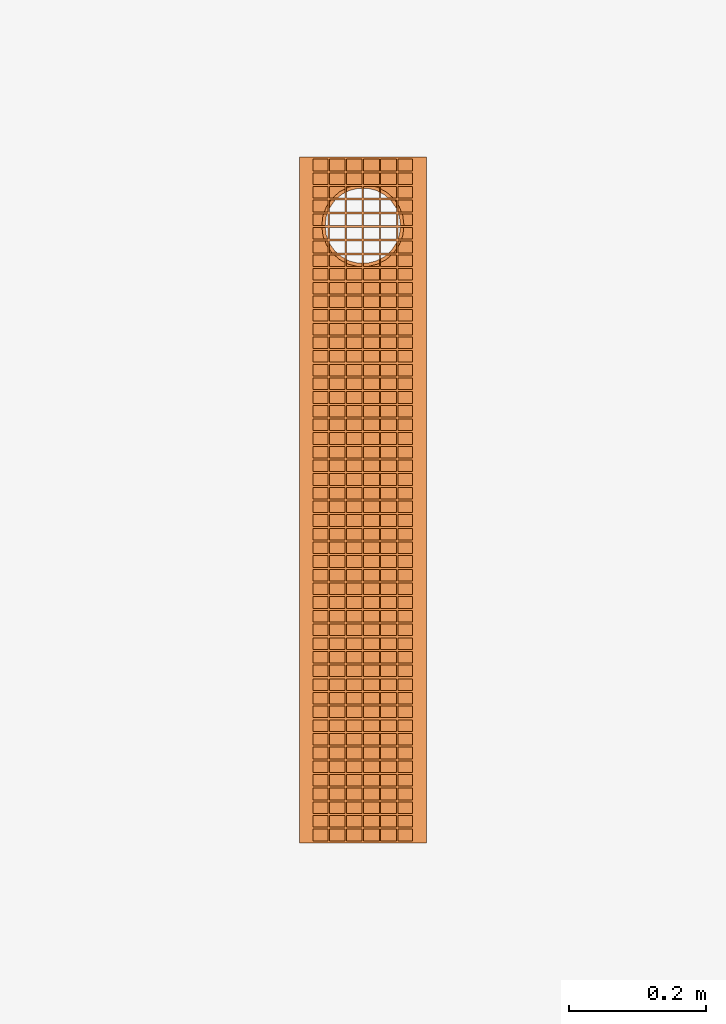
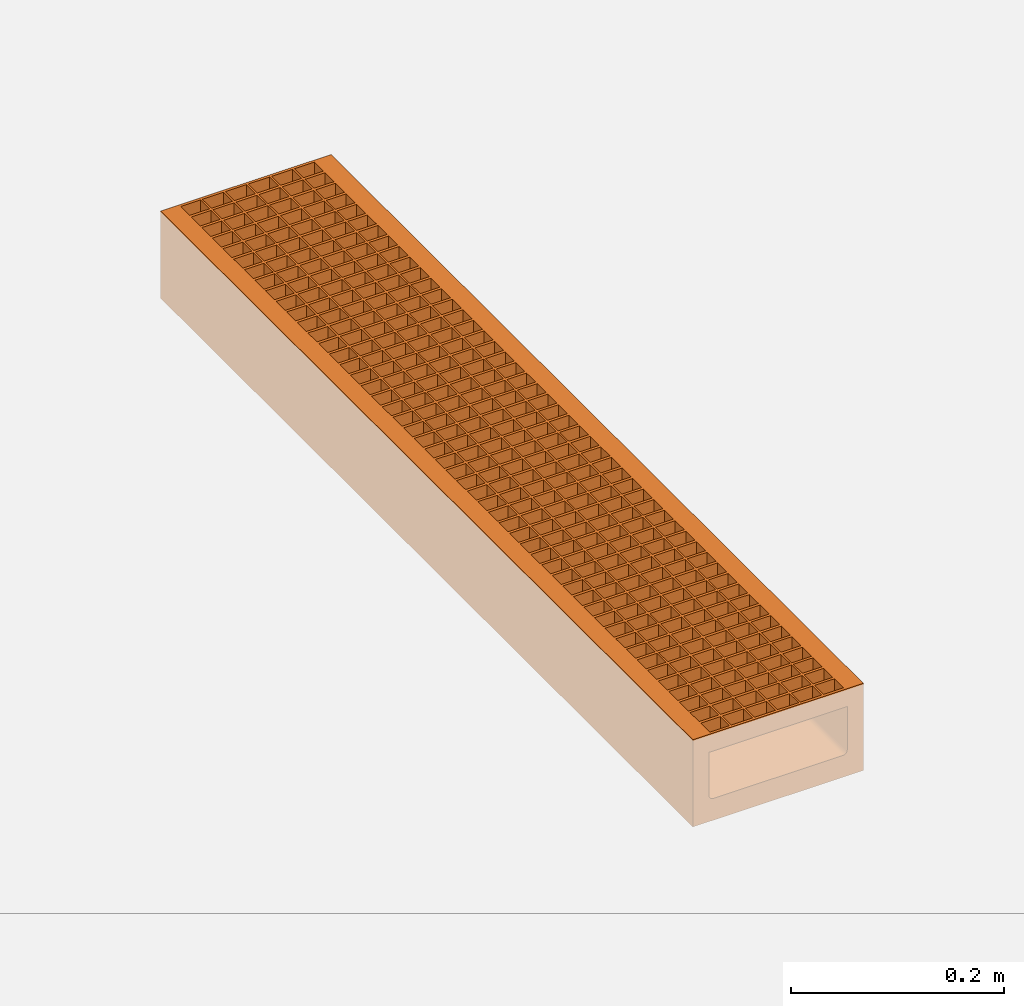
# One storey, part 2 of 2: 1 proxy, 1 opening.
"""IFC2X3 building model written with IfcOpenShell, lengths in millimetres."""

from ifc_helpers import new_model, entity, si_unit, converted_unit, direction, frame, frame_2d, origin, origin_2d_with_axis, place, context, subcontext, project, spatial, polyline, circle_curve, parameter, trimmed, segment, composite_curve, rectangle, circle, outline, extrude, source, transform, mapped, material, material_list, element, save


model = new_model("IFC2X3")

# Units and contexts
model_context = context("Model", 3, precision=1e-06, world=origin(), true_north=direction((2.0, 6.12303176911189e-17, 1.0)))
context_of_model = context(None, 3, precision=1e-06, world=origin(), true_north=direction((2.0, 6.12303176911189e-17, 1.0)))
body_context = subcontext(model_context, "Body", "Model", "MODEL_VIEW")
ifc_project = project(units=[si_unit("LENGTHUNIT", "METRE", prefix="MILLI"), si_unit("AREAUNIT", "SQUARE_METRE", prefix="MILLI"), si_unit("VOLUMEUNIT", "CUBIC_METRE", prefix="MILLI"), converted_unit("PLANEANGLEUNIT", "DEGREE", entity("IfcRatioMeasure", 0.0174532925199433), si_unit("PLANEANGLEUNIT", "RADIAN"), dimensions=[0, 0, 0, 0, 0, 0, 0]), si_unit("TIMEUNIT", "SECOND")], contexts=[model_context, context_of_model])

# Site, building, storey
site_placement = place(None, origin())
site = spatial("IfcSite", under=ifc_project, at=site_placement, Name="Default", CompositionType="ELEMENT")
building_placement = place(site_placement, origin())
building = spatial("IfcBuilding", under=site, at=building_placement, CompositionType="ELEMENT")
storey_placement = place(building_placement, origin())
storey = spatial("IfcBuildingStorey", under=building, at=storey_placement, Name="Level 1", CompositionType="ELEMENT", Elevation=0.0)

# Proxy, opening
ifc_material_1 = material(Name="Plastic, Opaque Black")
ifc_material_2 = material(Name="Vienite® Synthetic Resin Concrete")
ifc_material_list = material_list([ifc_material_1, ifc_material_2])
shared_shape = source(origin(), body_context, "Body", "SweptSolid", [
    extrude(rectangle(XDim=3.00000000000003, YDim=145.0, at=frame_2d((-1.54321000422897e-14, 0.0), x_axis=(1.0, 0.0))), frame((0.0, 1.50000000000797, -20.5000000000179), z_axis=(0.0, 0.0, 1.0), x_axis=(0.0, 1.0, 0.0)), (0.0, 0.0, 1.0), 20.5),
    extrude(rectangle(XDim=3.00000000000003, YDim=145.0, at=frame_2d((-1.47659662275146e-14, 0.0), x_axis=(1.0, 0.0))), frame((0.0, 21.440000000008, -20.5000000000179), z_axis=(0.0, 0.0, 1.0), x_axis=(0.0, 1.0, 0.0)), (0.0, 0.0, 1.0), 20.5),
    extrude(rectangle(XDim=3.00000000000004, YDim=145.0, at=frame_2d((-1.26565424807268e-14, 0.0), x_axis=(1.0, 0.0))), frame((0.0, 41.380000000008, -20.5000000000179), z_axis=(0.0, 0.0, 1.0), x_axis=(0.0, 1.0, 0.0)), (0.0, 0.0, 1.0), 20.5),
    extrude(rectangle(XDim=3.00000000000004, YDim=145.0, at=frame_2d((-1.26565424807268e-14, 0.0), x_axis=(1.0, 0.0))), frame((0.0, 61.320000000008, -20.5000000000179), z_axis=(0.0, 0.0, 1.0), x_axis=(0.0, 1.0, 0.0)), (0.0, 0.0, 1.0), 20.5),
    extrude(rectangle(XDim=3.00000000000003, YDim=145.0, at=frame_2d((-1.68753899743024e-14, 0.0), x_axis=(1.0, 0.0))), frame((0.0, 81.260000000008, -20.5000000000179), z_axis=(0.0, 0.0, 1.0), x_axis=(0.0, 1.0, 0.0)), (0.0, 0.0, 1.0), 20.5),
    extrude(rectangle(XDim=3.00000000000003, YDim=145.0, at=frame_2d((-1.68753899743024e-14, 0.0), x_axis=(1.0, 0.0))), frame((0.0, 101.200000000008, -20.5000000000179), z_axis=(0.0, 0.0, 1.0), x_axis=(0.0, 1.0, 0.0)), (0.0, 0.0, 1.0), 20.5),
    extrude(rectangle(XDim=3.00000000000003, YDim=145.0, at=frame_2d((-1.68753899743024e-14, 0.0), x_axis=(1.0, 0.0))), frame((0.0, 121.140000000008, -20.5000000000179), z_axis=(0.0, 0.0, 1.0), x_axis=(0.0, 1.0, 0.0)), (0.0, 0.0, 1.0), 20.5),
    extrude(rectangle(XDim=3.00000000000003, YDim=145.0, at=frame_2d((-1.68753899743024e-14, 0.0), x_axis=(1.0, 0.0))), frame((0.0, 141.080000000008, -20.5000000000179), z_axis=(0.0, 0.0, 1.0), x_axis=(0.0, 1.0, 0.0)), (0.0, 0.0, 1.0), 20.5),
    extrude(rectangle(XDim=3.00000000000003, YDim=145.0, at=frame_2d((-1.68753899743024e-14, 0.0), x_axis=(1.0, 0.0))), frame((0.0, 161.020000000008, -20.5000000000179), z_axis=(0.0, 0.0, 1.0), x_axis=(0.0, 1.0, 0.0)), (0.0, 0.0, 1.0), 20.5),
    extrude(rectangle(XDim=3.00000000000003, YDim=145.0, at=frame_2d((1.68753899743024e-14, 0.0), x_axis=(1.0, 0.0))), frame((0.0, 180.960000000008, -20.5000000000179), z_axis=(0.0, 0.0, 1.0), x_axis=(0.0, 1.0, 0.0)), (0.0, 0.0, 1.0), 20.5),
    extrude(rectangle(XDim=3.00000000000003, YDim=145.0, at=frame_2d((-1.68753899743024e-14, 0.0), x_axis=(1.0, 0.0))), frame((0.0, 200.900000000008, -20.5000000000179), z_axis=(0.0, 0.0, 1.0), x_axis=(0.0, 1.0, 0.0)), (0.0, 0.0, 1.0), 20.5),
    extrude(rectangle(XDim=3.00000000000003, YDim=145.0, at=frame_2d((-1.68753899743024e-14, 0.0), x_axis=(1.0, 0.0))), frame((0.0, 220.840000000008, -20.5000000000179), z_axis=(0.0, 0.0, 1.0), x_axis=(0.0, 1.0, 0.0)), (0.0, 0.0, 1.0), 20.5),
    extrude(rectangle(XDim=3.00000000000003, YDim=145.0, at=frame_2d((1.68753899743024e-14, 0.0), x_axis=(1.0, 0.0))), frame((0.0, 240.780000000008, -20.5000000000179), z_axis=(0.0, 0.0, 1.0), x_axis=(0.0, 1.0, 0.0)), (0.0, 0.0, 1.0), 20.5),
    extrude(rectangle(XDim=3.00000000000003, YDim=145.0, at=frame_2d((-5.07371922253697e-14, 0.0), x_axis=(1.0, 0.0))), frame((0.0, 260.720000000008, -20.5000000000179), z_axis=(0.0, 0.0, 1.0), x_axis=(0.0, 1.0, 0.0)), (0.0, 0.0, 1.0), 20.5),
    extrude(rectangle(XDim=3.00000000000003, YDim=145.0, at=frame_2d((-1.68753899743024e-14, 0.0), x_axis=(1.0, 0.0))), frame((0.0, 280.660000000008, -20.5000000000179), z_axis=(0.0, 0.0, 1.0), x_axis=(0.0, 1.0, 0.0)), (0.0, 0.0, 1.0), 20.5),
    extrude(rectangle(XDim=3.00000000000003, YDim=145.0, at=frame_2d((1.68753899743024e-14, 0.0), x_axis=(1.0, 0.0))), frame((0.0, 300.600000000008, -20.5000000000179), z_axis=(0.0, 0.0, 1.0), x_axis=(0.0, 1.0, 0.0)), (0.0, 0.0, 1.0), 20.5),
    extrude(rectangle(XDim=2.99999999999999, YDim=145.0, at=origin_2d_with_axis()), frame((0.0, 320.540000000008, -20.5000000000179), z_axis=(0.0, 0.0, 1.0), x_axis=(0.0, 1.0, 0.0)), (0.0, 0.0, 1.0), 20.5),
    extrude(rectangle(XDim=2.99999999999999, YDim=145.0, at=origin_2d_with_axis()), frame((0.0, 340.480000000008, -20.5000000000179), z_axis=(0.0, 0.0, 1.0), x_axis=(0.0, 1.0, 0.0)), (0.0, 0.0, 1.0), 20.5),
    extrude(rectangle(XDim=2.99999999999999, YDim=145.0, at=origin_2d_with_axis()), frame((0.0, 360.420000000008, -20.5000000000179), z_axis=(0.0, 0.0, 1.0), x_axis=(0.0, 1.0, 0.0)), (0.0, 0.0, 1.0), 20.5),
    extrude(rectangle(XDim=2.99999999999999, YDim=145.0, at=origin_2d_with_axis()), frame((0.0, 380.360000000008, -20.5000000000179), z_axis=(0.0, 0.0, 1.0), x_axis=(0.0, 1.0, 0.0)), (0.0, 0.0, 1.0), 20.5),
    extrude(rectangle(XDim=2.99999999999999, YDim=145.0, at=origin_2d_with_axis()), frame((0.0, 400.300000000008, -20.5000000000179), z_axis=(0.0, 0.0, 1.0), x_axis=(0.0, 1.0, 0.0)), (0.0, 0.0, 1.0), 20.5),
    extrude(rectangle(XDim=2.99999999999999, YDim=145.0, at=frame_2d((-6.7612582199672e-14, 0.0), x_axis=(1.0, 0.0))), frame((0.0, 420.240000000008, -20.5000000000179), z_axis=(0.0, 0.0, 1.0), x_axis=(0.0, 1.0, 0.0)), (0.0, 0.0, 1.0), 20.5),
    extrude(rectangle(XDim=2.99999999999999, YDim=145.0, at=origin_2d_with_axis()), frame((0.0, 440.180000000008, -20.5000000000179), z_axis=(0.0, 0.0, 1.0), x_axis=(0.0, 1.0, 0.0)), (0.0, 0.0, 1.0), 20.5),
    extrude(rectangle(XDim=2.99999999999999, YDim=145.0, at=origin_2d_with_axis()), frame((0.0, 659.520000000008, -20.5000000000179), z_axis=(0.0, 0.0, 1.0), x_axis=(0.0, 1.0, 0.0)), (0.0, 0.0, 1.0), 20.5),
    extrude(rectangle(XDim=2.99999999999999, YDim=145.0, at=frame_2d((-1.35336186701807e-13, 0.0), x_axis=(1.0, 0.0))), frame((0.0, 739.280000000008, -20.5000000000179), z_axis=(0.0, 0.0, 1.0), x_axis=(0.0, 1.0, 0.0)), (0.0, 0.0, 1.0), 20.5),
    extrude(rectangle(XDim=2.99999999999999, YDim=145.0, at=origin_2d_with_axis()), frame((0.0, 998.500000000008, -20.5000000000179), z_axis=(0.0, 0.0, 1.0), x_axis=(0.0, 1.0, 0.0)), (0.0, 0.0, 1.0), 20.5),
    extrude(rectangle(XDim=2.99999999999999, YDim=145.0, at=frame_2d((-6.7612582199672e-14, 0.0), x_axis=(1.0, 0.0))), frame((0.0, 460.120000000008, -20.5000000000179), z_axis=(0.0, 0.0, 1.0), x_axis=(0.0, 1.0, 0.0)), (0.0, 0.0, 1.0), 20.5),
    extrude(rectangle(XDim=2.99999999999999, YDim=145.0, at=origin_2d_with_axis()), frame((0.0, 480.060000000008, -20.5000000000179), z_axis=(0.0, 0.0, 1.0), x_axis=(0.0, 1.0, 0.0)), (0.0, 0.0, 1.0), 20.5),
    extrude(rectangle(XDim=2.99999999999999, YDim=145.0, at=origin_2d_with_axis()), frame((0.0, 500.0, -20.5000000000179), z_axis=(0.0, 0.0, 1.0), x_axis=(0.0, 1.0, 0.0)), (0.0, 0.0, 1.0), 20.5),
    extrude(rectangle(XDim=2.99999999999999, YDim=145.0, at=origin_2d_with_axis()), frame((0.0, 519.940000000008, -20.5000000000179), z_axis=(0.0, 0.0, 1.0), x_axis=(0.0, 1.0, 0.0)), (0.0, 0.0, 1.0), 20.5),
    extrude(rectangle(XDim=2.99999999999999, YDim=145.0, at=frame_2d((-6.7612582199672e-14, 0.0), x_axis=(1.0, 0.0))), frame((0.0, 539.880000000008, -20.5000000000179), z_axis=(0.0, 0.0, 1.0), x_axis=(0.0, 1.0, 0.0)), (0.0, 0.0, 1.0), 20.5),
    extrude(rectangle(XDim=2.99999999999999, YDim=145.0, at=frame_2d((-6.7612582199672e-14, 0.0), x_axis=(1.0, 0.0))), frame((0.0, 559.820000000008, -20.5000000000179), z_axis=(0.0, 0.0, 1.0), x_axis=(0.0, 1.0, 0.0)), (0.0, 0.0, 1.0), 20.5),
    extrude(rectangle(XDim=2.99999999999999, YDim=145.0, at=origin_2d_with_axis()), frame((0.0, 579.760000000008, -20.5000000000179), z_axis=(0.0, 0.0, 1.0), x_axis=(0.0, 1.0, 0.0)), (0.0, 0.0, 1.0), 20.5),
    extrude(rectangle(XDim=2.99999999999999, YDim=145.0, at=origin_2d_with_axis()), frame((0.0, 599.700000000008, -20.5000000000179), z_axis=(0.0, 0.0, 1.0), x_axis=(0.0, 1.0, 0.0)), (0.0, 0.0, 1.0), 20.5),
    extrude(rectangle(XDim=2.99999999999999, YDim=145.0, at=origin_2d_with_axis()), frame((0.0, 619.640000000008, -20.5000000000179), z_axis=(0.0, 0.0, 1.0), x_axis=(0.0, 1.0, 0.0)), (0.0, 0.0, 1.0), 20.5),
    extrude(rectangle(XDim=2.99999999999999, YDim=145.0, at=frame_2d((-1.35336186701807e-13, 0.0), x_axis=(1.0, 0.0))), frame((0.0, 639.580000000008, -20.5000000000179), z_axis=(0.0, 0.0, 1.0), x_axis=(0.0, 1.0, 0.0)), (0.0, 0.0, 1.0), 20.5),
    extrude(rectangle(XDim=2.99999999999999, YDim=145.0, at=origin_2d_with_axis()), frame((0.0, 679.460000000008, -20.5000000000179), z_axis=(0.0, 0.0, 1.0), x_axis=(0.0, 1.0, 0.0)), (0.0, 0.0, 1.0), 20.5),
    extrude(rectangle(XDim=2.99999999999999, YDim=145.0, at=origin_2d_with_axis()), frame((0.0, 699.400000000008, -20.5000000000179), z_axis=(0.0, 0.0, 1.0), x_axis=(0.0, 1.0, 0.0)), (0.0, 0.0, 1.0), 20.5),
    extrude(rectangle(XDim=2.99999999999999, YDim=145.0, at=origin_2d_with_axis()), frame((0.0, 719.340000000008, -20.5000000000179), z_axis=(0.0, 0.0, 1.0), x_axis=(0.0, 1.0, 0.0)), (0.0, 0.0, 1.0), 20.5),
    extrude(rectangle(XDim=2.99999999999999, YDim=145.0, at=origin_2d_with_axis()), frame((0.0, 759.220000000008, -20.5000000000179), z_axis=(0.0, 0.0, 1.0), x_axis=(0.0, 1.0, 0.0)), (0.0, 0.0, 1.0), 20.5),
    extrude(rectangle(XDim=2.99999999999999, YDim=145.0, at=frame_2d((-1.35336186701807e-13, 0.0), x_axis=(1.0, 0.0))), frame((0.0, 779.160000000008, -20.5000000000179), z_axis=(0.0, 0.0, 1.0), x_axis=(0.0, 1.0, 0.0)), (0.0, 0.0, 1.0), 20.5),
    extrude(rectangle(XDim=2.99999999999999, YDim=145.0, at=origin_2d_with_axis()), frame((0.0, 799.100000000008, -20.5000000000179), z_axis=(0.0, 0.0, 1.0), x_axis=(0.0, 1.0, 0.0)), (0.0, 0.0, 1.0), 20.5),
    extrude(rectangle(XDim=2.99999999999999, YDim=145.0, at=origin_2d_with_axis()), frame((0.0, 819.040000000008, -20.5000000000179), z_axis=(0.0, 0.0, 1.0), x_axis=(0.0, 1.0, 0.0)), (0.0, 0.0, 1.0), 20.5),
    extrude(rectangle(XDim=2.99999999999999, YDim=145.0, at=frame_2d((1.35336186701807e-13, 0.0), x_axis=(1.0, 0.0))), frame((0.0, 838.980000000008, -20.5000000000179), z_axis=(0.0, 0.0, 1.0), x_axis=(0.0, 1.0, 0.0)), (0.0, 0.0, 1.0), 20.5),
    extrude(rectangle(XDim=2.99999999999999, YDim=145.0, at=origin_2d_with_axis()), frame((0.0, 858.920000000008, -20.5000000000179), z_axis=(0.0, 0.0, 1.0), x_axis=(0.0, 1.0, 0.0)), (0.0, 0.0, 1.0), 20.5),
    extrude(rectangle(XDim=2.99999999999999, YDim=145.0, at=frame_2d((-1.35336186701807e-13, 0.0), x_axis=(1.0, 0.0))), frame((0.0, 878.860000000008, -20.5000000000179), z_axis=(0.0, 0.0, 1.0), x_axis=(0.0, 1.0, 0.0)), (0.0, 0.0, 1.0), 20.5),
    extrude(rectangle(XDim=2.99999999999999, YDim=145.0, at=origin_2d_with_axis()), frame((0.0, 898.800000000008, -20.5000000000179), z_axis=(0.0, 0.0, 1.0), x_axis=(0.0, 1.0, 0.0)), (0.0, 0.0, 1.0), 20.5),
    extrude(rectangle(XDim=2.99999999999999, YDim=145.0, at=frame_2d((-1.35336186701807e-13, 0.0), x_axis=(1.0, 0.0))), frame((0.0, 918.740000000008, -20.5000000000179), z_axis=(0.0, 0.0, 1.0), x_axis=(0.0, 1.0, 0.0)), (0.0, 0.0, 1.0), 20.5),
    extrude(rectangle(XDim=2.99999999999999, YDim=145.0, at=frame_2d((1.35336186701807e-13, 0.0), x_axis=(1.0, 0.0))), frame((0.0, 938.680000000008, -20.5000000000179), z_axis=(0.0, 0.0, 1.0), x_axis=(0.0, 1.0, 0.0)), (0.0, 0.0, 1.0), 20.5),
    extrude(rectangle(XDim=2.99999999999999, YDim=145.0, at=origin_2d_with_axis()), frame((0.0, 958.620000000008, -20.5000000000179), z_axis=(0.0, 0.0, 1.0), x_axis=(0.0, 1.0, 0.0)), (0.0, 0.0, 1.0), 20.5),
    extrude(rectangle(XDim=2.99999999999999, YDim=145.0, at=origin_2d_with_axis()), frame((0.0, 978.560000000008, -20.5000000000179), z_axis=(0.0, 0.0, 1.0), x_axis=(0.0, 1.0, 0.0)), (0.0, 0.0, 1.0), 20.5),
    extrude(rectangle(XDim=1000.0, YDim=15.7499999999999, at=origin_2d_with_axis()), frame((80.3749999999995, 500.0, -20.5000000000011), z_axis=(0.0, 0.0, 1.0), x_axis=(0.0, 1.0, 0.0)), (0.0, 0.0, 1.0), 20.5),
    extrude(rectangle(XDim=1000.0, YDim=15.7499999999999, at=origin_2d_with_axis()), frame((-80.3750000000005, 500.0, -20.5000000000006), z_axis=(0.0, 0.0, 1.0), x_axis=(0.0, 1.0, 0.0)), (0.0, 0.0, 1.0), 20.5),
    extrude(rectangle(XDim=1000.0, YDim=1.99999999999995, at=origin_2d_with_axis()), frame((-50.0, 500.0, -20.5000000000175), z_axis=(0.0, 0.0, 1.0), x_axis=(0.0, 1.0, 0.0)), (0.0, 0.0, 1.0), 20.5000000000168),
    extrude(rectangle(XDim=1000.0, YDim=1.99999999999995, at=origin_2d_with_axis()), frame((50.0, 500.0, -20.5000000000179), z_axis=(0.0, 0.0, 1.0), x_axis=(0.0, 1.0, 0.0)), (0.0, 0.0, 1.0), 20.5000000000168),
    extrude(rectangle(XDim=1000.0, YDim=1.99999999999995, at=origin_2d_with_axis()), frame((-25.0, 500.0, -20.5000000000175), z_axis=(0.0, 0.0, 1.0), x_axis=(0.0, 1.0, 0.0)), (0.0, 0.0, 1.0), 20.5000000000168),
    extrude(rectangle(XDim=1000.0, YDim=1.99999999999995, at=origin_2d_with_axis()), frame((0.0, 500.0, -20.5000000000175), z_axis=(0.0, 0.0, 1.0), x_axis=(0.0, 1.0, 0.0)), (0.0, 0.0, 1.0), 20.5000000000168),
    extrude(rectangle(XDim=1000.0, YDim=1.99999999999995, at=origin_2d_with_axis()), frame((25.0, 500.0, -20.5000000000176), z_axis=(0.0, 0.0, 1.0), x_axis=(0.0, 1.0, 0.0)), (0.0, 0.0, 1.0), 20.5000000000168),
    extrude(outline(composite_curve([segment(trimmed(circle_curve(origin_2d_with_axis(), 60.0), [parameter(269.999999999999)], [parameter(89.9999999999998)], True, "PARAMETER"), True, "CONTINUOUS"), segment(trimmed(circle_curve(origin_2d_with_axis(), 60.0), [parameter(90.0000000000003)], [parameter(269.999999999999)], True, "PARAMETER"), True, "CONTINUOUS")], self_intersect=False), holes=[composite_curve([segment(trimmed(circle_curve(origin_2d_with_axis(), 55.0), [parameter(269.999999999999)], [parameter(90.0)], True, "PARAMETER"), False, "CONTINUOUS"), segment(trimmed(circle_curve(origin_2d_with_axis(), 55.0), [parameter(89.9999999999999)], [parameter(269.999999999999)], True, "PARAMETER"), False, "CONTINUOUS")], self_intersect=False)]), frame((0.0, 900.0, -105.0), z_axis=(0.0, 0.0, 1.0), x_axis=(0.0, -1.0, 0.0)), (0.0, 0.0, 1.0), 30.0),
    extrude(outline(composite_curve([segment(polyline([(-92.4999999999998, -40.857142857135), (-88.25, -40.857142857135)]), True, "CONTINUOUS"), segment(polyline([(-88.25, -40.857142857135), (-88.25, -20.357142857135)]), True, "CONTINUOUS"), segment(polyline([(-88.25, -20.357142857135), (-75.0, -20.357142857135)]), True, "CONTINUOUS"), segment(polyline([(-75.0, -20.357142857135), (-75.0, 29.1428571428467)]), True, "CONTINUOUS"), segment(trimmed(circle_curve(frame_2d((-70.0, 29.1428571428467), x_axis=(-1.0, 0.0)), 5.0), [parameter(270.0)], [parameter(4.07110999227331e-13)], True, "PARAMETER"), False, "CONTINUOUS"), segment(polyline([(-70.0, 34.1428571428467), (70.0, 34.1428571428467)]), True, "CONTINUOUS"), segment(trimmed(circle_curve(frame_2d((70.0, 29.1428571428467), x_axis=(-1.0, 0.0)), 5.0), [parameter(180.0)], [parameter(270.0)], True, "PARAMETER"), False, "CONTINUOUS"), segment(polyline([(75.0, 29.1428571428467), (75.0, -20.357142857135)]), True, "CONTINUOUS"), segment(polyline([(75.0, -20.357142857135), (88.25, -20.357142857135)]), True, "CONTINUOUS"), segment(polyline([(88.25, -20.357142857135), (88.25, -40.857142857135)]), True, "CONTINUOUS"), segment(polyline([(88.25, -40.857142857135), (92.4999999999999, -40.857142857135)]), True, "CONTINUOUS"), segment(polyline([(92.4999999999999, -40.857142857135), (92.4999999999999, 59.1428571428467)]), True, "CONTINUOUS"), segment(polyline([(92.4999999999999, 59.1428571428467), (-92.4999999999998, 59.1428571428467)]), True, "CONTINUOUS"), segment(polyline([(-92.4999999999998, 59.1428571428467), (-92.4999999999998, -40.857142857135)]), True, "CONTINUOUS")], self_intersect=False)), frame((0.0, 0.0, -40.8571428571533), z_axis=(0.0, 1.0, 0.0), x_axis=(1.0, 0.0, 0.0)), (0.0, 0.0, 1.0), 1000.0),
])
proxy_placement = place(storey_placement, frame((-771.067269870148, -1104.35833270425, 0.0)))
proxy = element("IfcBuildingElementProxy", 1, at=proxy_placement, inside=storey, material=ifc_material_list, Name="Civil-Drainage-Channel-ACO-MultiDrain-M150DS-Channel-System-Custom_Final FL:24157 - No 0100V Constant Depth Channel - 1000mm LG - Invert Depth 75mm:24157 - No 0100V Constant Depth Channel - 1000mm LG - Invert Depth 75mm", ObjectType="24157 - No 0100V Constant Depth Channel - 1000mm LG - Invert Depth 75mm", CompositionType="ELEMENT", context=body_context, shape_type="MappedRepresentation", body=[
    mapped(shared_shape, transform((0.0, 0.0, 0.0), scale=1.0)),
])
opening_placement = place(storey_placement, frame((-771.067269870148, -1104.35833270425, 0.0)))
element("IfcOpeningElement", 2, at=opening_placement, cuts=proxy, Name="Civil-Drainage-Channel-ACO-MultiDrain-M150DS-Channel-System-Custom_Final FL:24157 - No 0100V Constant Depth Channel - 1000mm LG - Invert Depth 75mm:24157 - No 0100V Constant Depth Channel - 1000mm LG - Invert Depth 75mm:1", ObjectType="Opening", context=body_context, shape_type="SweptSolid", body=[
    extrude(circle(Radius=60.0, at=frame_2d((4.80889607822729e-28, -1.76735507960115e-42), x_axis=(1.0, 0.0))), frame((0.0, 900.0, -75.0), z_axis=(0.0, 0.0, -1.0), x_axis=(-1.0, 0.0, 0.0)), (0.0, 0.0, 1.0), 25.0),
])

save(model, "model.ifc")
